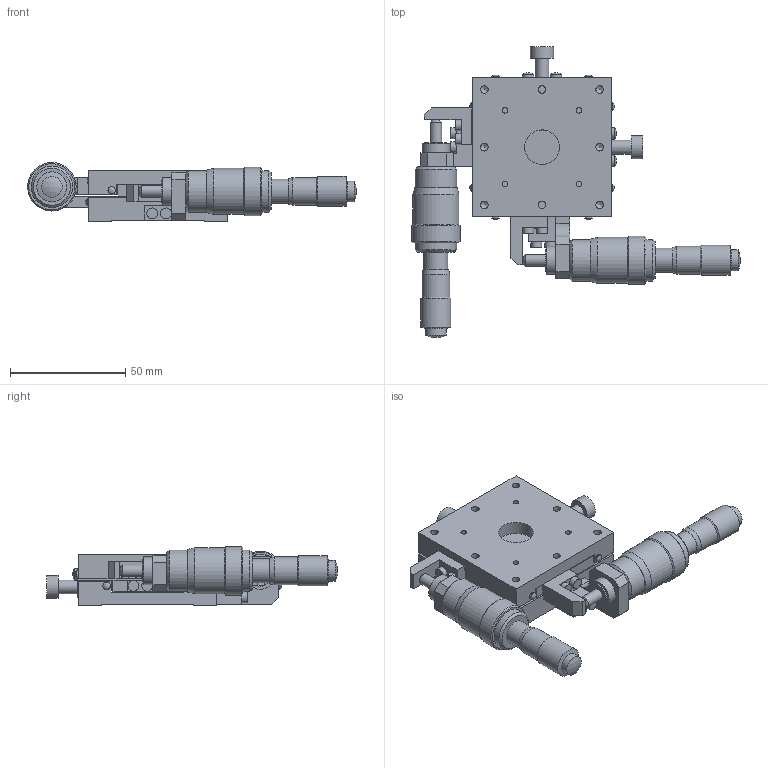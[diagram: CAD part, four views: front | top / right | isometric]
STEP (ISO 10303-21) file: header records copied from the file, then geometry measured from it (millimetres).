
FILE_DESCRIPTION( ( 'STEP AP214' ), '1' );
FILE_NAME( 'C:/Project/3D_B23-60D-配布-070508.stp', '2007-05-08T10:43:04', ( ' ' ), ( ' ' ), 'XStep 1.0', ' ', ' ' );
FILE_SCHEMA( ( 'automotive_design' ) );
Length unit declared in the file: millimetre
Products named in the file (5): 1; 2; 3; 4; 5
Bounding box: 142.46 x 126.11 x 25.5 mm (x, y, z)
Volume: 111113.4 mm3; surface area: 50322.3 mm2
Topology: 5 solids, 5 shells, 272 faces, 654 edges, 431 vertices
Faces by surface type: plane 142, cylinder 92, cone 22, sphere 16
Full cylindrical faces by diameter (mm): 2.5 x4, 3 x2, 3.2 x8, 3.3 x14, 4.5 x4, 4.7 x8, 5 x8, 6 x2, 8 x4, 9 x2, 9.5 x2, 10 x2, 10.5 x4, 12 x4, 13 x2, 15 x1, 18 x4, 20 x2, 21 x2
Entity records: 9254 total; most frequent: DIRECTION 1244, CARTESIAN_POINT 1159, ORIENTED_EDGE 996, EDGE_CURVE 498, AXIS2_PLACEMENT_3D 469, EDGE_LOOP 444, VERTEX_POINT 384, FACE_OUTER_BOUND 351
